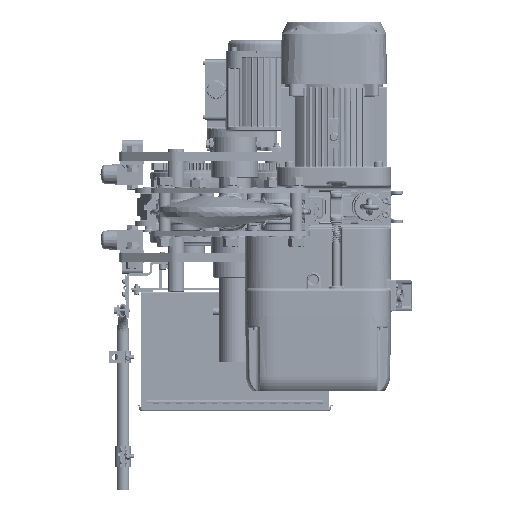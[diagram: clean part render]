
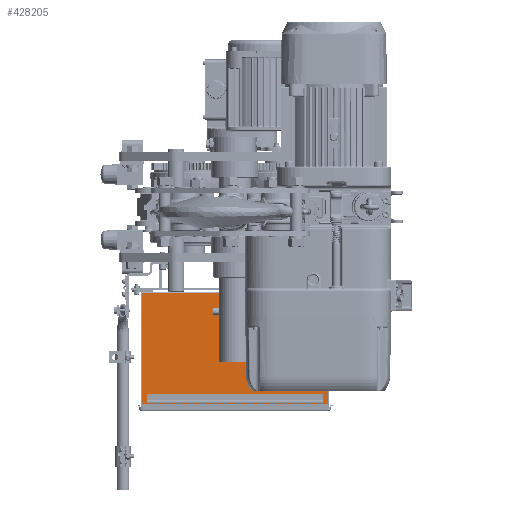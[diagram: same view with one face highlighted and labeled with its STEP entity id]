
A CAD part, front view. The second image highlights one B-rep face of the part: STEP entity #428205.
In plain terms, the highlighted planar face has unit normal (0, -1, 0) as drawn and (0, 0, 1) by its records, which use the part's own axes.
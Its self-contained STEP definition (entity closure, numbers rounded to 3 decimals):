
#27082 = LINE ( 'NONE', #66745, #354498 ) ;
#30948 = ORIENTED_EDGE ( 'NONE', *, *, #71425, .F. ) ;
#40293 = CARTESIAN_POINT ( 'NONE',  ( 13.082, -63.732, 323.235 ) ) ;
#63266 = ORIENTED_EDGE ( 'NONE', *, *, #102185, .F. ) ;
#66745 = CARTESIAN_POINT ( 'NONE',  ( 2047.598, 182.038, 323.235 ) ) ;
#68124 = EDGE_CURVE ( 'NONE', #107660, #152562, #340470, .T. ) ;
#71425 = EDGE_CURVE ( 'NONE', #300386, #107660, #426173, .T. ) ;
#90786 = DIRECTION ( 'NONE',  ( -1., 0., 0. ) ) ;
#102185 = EDGE_CURVE ( 'NONE', #106468, #300386, #291918, .T. ) ;
#106468 = VERTEX_POINT ( 'NONE', #314872 ) ;
#107660 = VERTEX_POINT ( 'NONE', #272635 ) ;
#116699 = CARTESIAN_POINT ( 'NONE',  ( 2047.598, 182.038, 323.235 ) ) ;
#120951 = EDGE_CURVE ( 'NONE', #152562, #106468, #27082, .T. ) ;
#128668 = DIRECTION ( 'NONE',  ( 0., -1., 0. ) ) ;
#130840 = CARTESIAN_POINT ( 'NONE',  ( 13.082, 182.038, 323.235 ) ) ;
#131234 = VECTOR ( 'NONE', #128668, 1000. ) ;
#152562 = VERTEX_POINT ( 'NONE', #164477 ) ;
#164477 = CARTESIAN_POINT ( 'NONE',  ( -389.403, 182.038, 323.235 ) ) ;
#176554 = VECTOR ( 'NONE', #90786, 1000. ) ;
#205124 = FACE_OUTER_BOUND ( 'NONE', #242650, .T. ) ;
#211600 = DIRECTION ( 'NONE',  ( 0., 1., 0. ) ) ;
#238877 = DIRECTION ( 'NONE',  ( 0., 1., 0. ) ) ;
#240358 = PLANE ( 'NONE',  #420913 ) ;
#242650 = EDGE_LOOP ( 'NONE', ( #30948, #63266, #270516, #325045 ) ) ;
#270516 = ORIENTED_EDGE ( 'NONE', *, *, #120951, .F. ) ;
#272635 = CARTESIAN_POINT ( 'NONE',  ( -389.403, -63.732, 323.235 ) ) ;
#280839 = VECTOR ( 'NONE', #238877, 1000. ) ;
#284350 = DIRECTION ( 'NONE',  ( 0., 0., -1. ) ) ;
#291918 = LINE ( 'NONE', #130840, #131234 ) ;
#300386 = VERTEX_POINT ( 'NONE', #40293 ) ;
#314872 = CARTESIAN_POINT ( 'NONE',  ( 13.082, 182.038, 323.235 ) ) ;
#325045 = ORIENTED_EDGE ( 'NONE', *, *, #68124, .F. ) ;
#331490 = DIRECTION ( 'NONE',  ( 1., 0., 0. ) ) ;
#340470 = LINE ( 'NONE', #371473, #280839 ) ;
#354498 = VECTOR ( 'NONE', #331490, 1000. ) ;
#371473 = CARTESIAN_POINT ( 'NONE',  ( -389.403, 182.038, 323.235 ) ) ;
#393083 = CARTESIAN_POINT ( 'NONE',  ( 2047.598, -63.732, 323.235 ) ) ;
#420913 = AXIS2_PLACEMENT_3D ( 'NONE', #116699, #284350, #211600 ) ;
#426173 = LINE ( 'NONE', #393083, #176554 ) ;
#428205 = ADVANCED_FACE ( 'NONE', ( #205124 ), #240358, .F. ) ;
